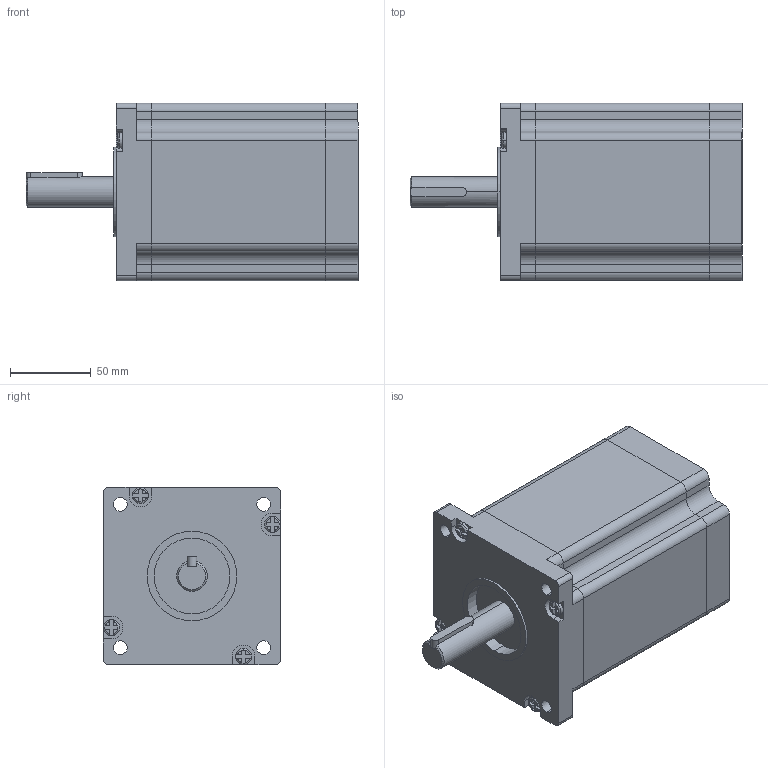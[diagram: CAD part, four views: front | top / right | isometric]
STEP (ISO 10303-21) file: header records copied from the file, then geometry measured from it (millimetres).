
FILE_DESCRIPTION (( 'STEP AP214' ), '1' );
FILE_NAME ('110J18150-460.STEP', '2018-01-16T06:48:38', ( '' ), ( '' ), 'SwSTEP 2.0', 'SolidWorks 2016', '' );
FILE_SCHEMA (( 'AUTOMOTIVE_DESIGN' ));
Length unit declared in the file: millimetre
Products named in the file (5): 奻裔; 110儂旯-150; 110J18150-460; 菁釱; 瑩
Assembly tree (4 placements, depth 2):
  110J18150-460
    菁釱
    奻裔
    瑩
    110儂旯-150
Bounding box: 206 x 110 x 110 mm (x, y, z)
Volume: 1637954 mm3; surface area: 137490.9 mm2
Topology: 4 solids, 4 shells, 216 faces, 586 edges, 382 vertices
Faces by surface type: plane 121, cylinder 82, bspline 10, cone 3
Entity records: 9308 total; most frequent: CARTESIAN_POINT 1545, ORIENTED_EDGE 1160, DIRECTION 1156, EDGE_CURVE 580, AXIS2_PLACEMENT_3D 399, VERTEX_POINT 380, VECTOR 358, LINE 358
